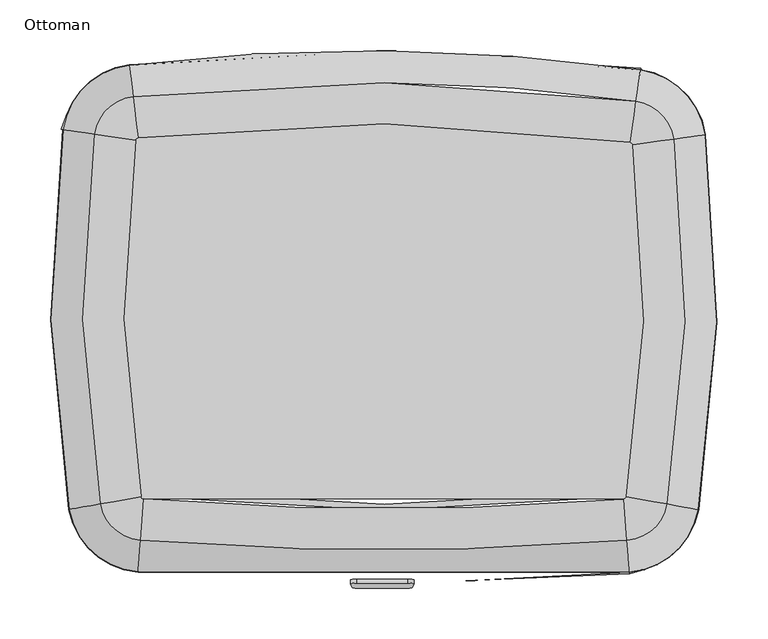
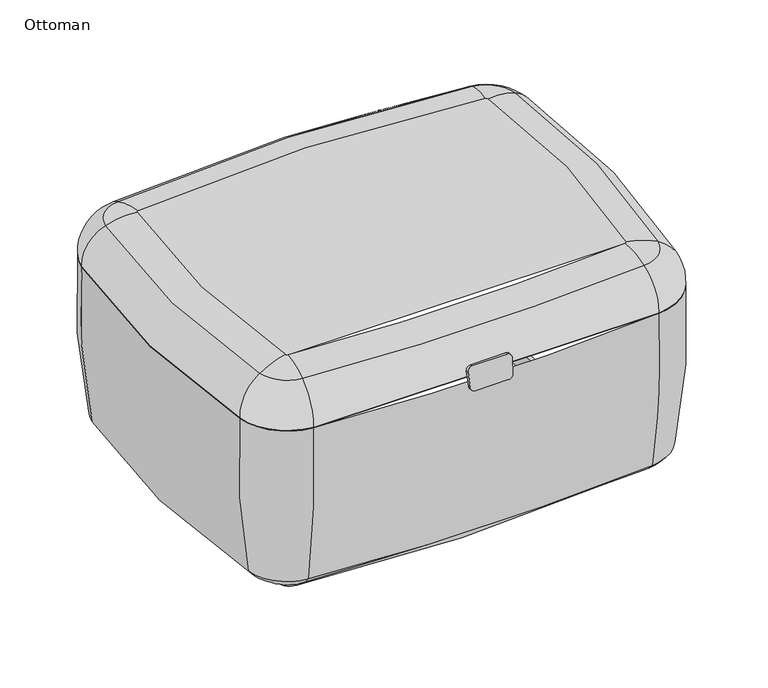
"""IFC4 building model written with IfcOpenShell, lengths in millimetres: furniture geometry, Coalesse_AM_Seating_Ottoman_Massaud : Ottoman."""

from ifc_helpers import new_model, si_unit, point, frame, frame_2d, origin, place, context, project, spatial, polyline, circle_curve, ellipse_curve, trimmed, segment, composite_curve, outline, extrude, source, transform, mapped, element, save
from ifc_brep_helpers import plane_surface, cylinder_surface, revolved_surface, advanced_brep


def ottoman_db271298(model_context):
    return source(origin(), model_context, "Body", "SolidModel", [
        extrude(outline(composite_curve([segment(trimmed(circle_curve(frame_2d((49.6176075, -6.35)), 6.35), [point((49.6176075, 0.0))], [point((55.9589051, -6.6823334))], False, "CARTESIAN"), True, "CONTINUOUS"), segment(polyline([(55.9589051, -6.6823334), (54.8146661, -28.5157131)]), True, "CONTINUOUS"), segment(trimmed(circle_curve(frame_2d((48.4733686, -28.1833798)), 6.35), [point((54.8146661, -28.5157131))], [point((48.4733686, -34.5333798))], False, "CARTESIAN"), True, "CONTINUOUS"), segment(polyline([(48.4733686, -34.5333798), (0.9445452, -34.5333798)]), True, "CONTINUOUS"), segment(trimmed(circle_curve(frame_2d((0.9445452, -28.1833798)), 6.35), [point((0.9445452, -34.5333798))], [point((-5.3967523, -28.5157131))], False, "CARTESIAN"), True, "CONTINUOUS"), segment(polyline([(-5.3967523, -28.5157131), (-6.5409913, -6.6823334)]), True, "CONTINUOUS"), segment(trimmed(circle_curve(frame_2d((-0.1996937, -6.35)), 6.35), [point((-6.5409913, -6.6823334))], [point((-0.1996937, 0.0))], False, "CARTESIAN"), True, "CONTINUOUS"), segment(polyline([(-0.1996937, 0.0), (49.6176075, 0.0)]), True, "CONTINUOUS")], self_intersect=False)), frame((-26.213421, 9.9094783, 308.7471317), z_axis=(0.0, -0.9891204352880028, 0.14710800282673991), x_axis=(1.0, 0.0, 0.0)), (0.0, 0.0, 1.0), 3.9838736),
        advanced_brep(
        [(-260.8692912, 446.3749834, 25.2801461), (-255.1823561, 88.8824496, 25.2801461), (-298.1236147, 81.1627828, 52.5429671), (-304.0343663, 452.7248842, 52.5429671), (-316.5470136, 454.5655868, 286.4331024), (-310.5713823, 78.9250138, 286.4331024), (-310.5713823, 78.9250138, 287.5250719), (-316.5470136, 454.5655868, 287.5250719), (-250.4263603, 505.0155623, 52.5429671), (-245.1521632, 461.705889, 25.2801461), (-251.955239, 517.5701255, 287.5250719), (-251.955239, 517.5701255, 286.4331024), (252.2554108, 500.2496092, 52.5429671), (246.1609929, 457.0477225, 25.2801461), (254.0220543, 512.7729274, 287.5250719), (254.0220543, 512.7729274, 286.4331024), (304.7408151, 447.8502813, 52.5429671), (261.5489896, 441.6849622, 25.2801461), (317.2612167, 449.6374776, 287.5250719), (317.2612167, 449.6374776, 286.4331024), (298.102988, 81.0480786, 52.5429671), (255.1625104, 88.7720887, 25.2801461), (310.5505292, 78.8090505, 287.5250719), (310.5505292, 78.8090505, 286.4331024), (286.9946214, 445.3171411, 340.1119348), (249.7514018, 482.4992817, 340.1119348), (244.0389023, 442.0047236, 349.2604972), (246.5094941, 439.5381836, 349.2604972), (240.2105349, 91.4616073, 349.2604972), (280.4600655, 84.221637, 340.1119348), (-286.2991636, 450.1159051, 340.1119348), (-280.4803712, 84.3345566, 340.1119348), (-240.2301086, 91.5704557, 349.2604972), (-245.8391103, 444.163933, 349.2604972), (-243.3156754, 446.6253587, 349.2604972), (-248.2593548, 487.2209486, 340.1119348), (237.583153, 89.0796896, 349.2604972), (240.8532959, 48.3151456, 340.1119348), (243.2980479, 17.8396589, 287.5250719), (243.2980479, 17.8396589, 286.4331024), (242.2867258, 30.4464728, 52.5429671), (238.7979522, 73.9363958, 25.2801461), (-237.6039993, 89.1883553, 349.2604972), (-240.8927859, 48.4253112, 340.1119348), (-243.3514759, 17.9509459, 287.5250719), (-243.3514759, 17.9509459, 286.4331024), (-242.3343881, 30.5572959, 52.5429671), (-238.8257243, 74.0456188, 25.2801461), (311.5030625, 78.6377115, 287.5250719), (243.3754381, 16.8749375, 287.5250719), (-243.4293073, 16.98626, 287.5250719), (-311.5239329, 78.7537712, 287.5250719), (-317.504529, 454.7064444, 287.5250719), (-252.0722347, 518.5308485, 287.5250719), (254.1572446, 513.7312595, 287.5250719), (318.2193256, 449.7742406, 287.5250719), (-311.5377376, 78.7512895, 286.4331024), (-243.4304353, 16.9722794, 286.4331024), (243.3765597, 16.8609564, 286.4331024), (311.5168669, 78.6352284, 286.4331024), (318.2332109, 449.7762227, 286.4331024), (254.1592038, 513.745148, 286.4331024), (-252.0739302, 518.5447717, 286.4331024), (-317.5184057, 454.7084858, 286.4331024)],
        [
            (0, 1, circle_curve(frame((835.9087058, 285.0308554, 25.2801461), z_axis=(0.0, 0.0, 1.0), x_axis=(-0.9842223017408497, -0.17693631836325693, 0.0)), 1108.5819331)),
            (1, 2, circle_curve(frame((-244.941887, 90.7234065, 90.4734502), z_axis=(-0.176936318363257, 0.9842223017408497, 0.0), x_axis=(0.9842223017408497, 0.176936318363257, 0.0)), 66.0183553)),
            (2, 3, circle_curve(frame((835.9087058, 285.0308554, 52.5429671), z_axis=(0.0, 0.0, -1.0), x_axis=(-0.9842223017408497, -0.17693631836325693, 0.0)), 1152.2115669)),
            (3, 0, circle_curve(frame((-250.5754473, 444.8606831, 90.4734502), z_axis=(-0.14554100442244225, -0.9893522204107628, 0.0), x_axis=(0.9893522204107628, -0.14554100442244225, 0.0)), 66.0183553)),
            (4, 5, circle_curve(frame((835.9087058, 285.0308554, 286.4331024), z_axis=(0.0, 0.0, 1.0), x_axis=(-0.9842223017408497, -0.17693631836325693, 0.0)), 1164.85888)),
            (5, 6),
            (6, 7, circle_curve(frame((835.9087058, 285.0308554, 287.5250719), z_axis=(0.0, 0.0, -1.0), x_axis=(-0.9842223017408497, -0.17693631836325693, 0.0)), 1164.85888)),
            (7, 4),
            (3, 8, circle_curve(frame((-242.9644274, 443.741046, 52.5429671), z_axis=(0.0, 0.0, -1.0), x_axis=(-0.9893522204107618, 0.14554100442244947, 0.0)), 61.7271965)),
            (8, 9, circle_curve(frame((-243.8943926, 451.3775619, 90.4734502), z_axis=(-0.9926664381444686, -0.12088565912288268, 0.0), x_axis=(0.12088565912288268, -0.9926664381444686, 0.0)), 66.0183553)),
            (9, 0, circle_curve(frame((-242.9644274, 443.741046, 25.2801461), z_axis=(0.0, 0.0, 1.0), x_axis=(-0.9893522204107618, 0.14554100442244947, 0.0)), 18.0975626)),
            (7, 10, circle_curve(frame((-242.9644274, 443.741046, 287.5250719), z_axis=(0.0, 0.0, -1.0), x_axis=(-0.9893522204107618, 0.14554100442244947, 0.0)), 74.3745095)),
            (10, 11),
            (11, 4, circle_curve(frame((-242.9644274, 443.741046, 286.4331024), z_axis=(0.0, 0.0, 1.0), x_axis=(-0.9893522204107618, 0.14554100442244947, 0.0)), 74.3745095)),
            (8, 12, circle_curve(frame((-17.2191717, -1409.9919824, 52.5429671), z_axis=(0.0, 0.0, -1.0), x_axis=(-0.12088565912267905, 0.9926664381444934, 0.0)), 1929.1551231)),
            (12, 13, circle_curve(frame((244.7076192, 446.7450998, 90.4734502), z_axis=(-0.9901959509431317, 0.13968528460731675, 0.0), x_axis=(-0.13968528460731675, -0.9901959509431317, 0.0)), 66.0183553)),
            (13, 9, circle_curve(frame((-17.2191717, -1409.9919824, 25.2801461), z_axis=(0.0, 0.0, 1.0), x_axis=(-0.12088565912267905, 0.9926664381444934, 0.0)), 1885.5254892)),
            (10, 14, circle_curve(frame((-17.2191717, -1409.9919824, 287.5250719), z_axis=(0.0, 0.0, -1.0), x_axis=(-0.12088565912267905, 0.9926664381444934, 0.0)), 1941.8024361)),
            (14, 15),
            (15, 11, circle_curve(frame((-17.2191717, -1409.9919824, 286.4331024), z_axis=(0.0, 0.0, 1.0), x_axis=(-0.12088565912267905, 0.9926664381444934, 0.0)), 1941.8024361)),
            (12, 16, circle_curve(frame((243.6330298, 439.1275892, 52.5429671), z_axis=(0.0, 0.0, -1.0), x_axis=(0.1396852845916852, 0.9901959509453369, 0.0)), 61.7271965)),
            (16, 17, circle_curve(frame((251.2487664, 440.2146802, 90.4734502), z_axis=(-0.14131035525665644, 0.9899653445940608, 0.0), x_axis=(-0.9899653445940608, -0.14131035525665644, 0.0)), 66.0183553)),
            (17, 13, circle_curve(frame((243.6330298, 439.1275892, 25.2801461), z_axis=(0.0, 0.0, 1.0), x_axis=(0.1396852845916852, 0.9901959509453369, 0.0)), 18.0975626)),
            (14, 18, circle_curve(frame((243.6330298, 439.1275892, 287.5250719), z_axis=(0.0, 0.0, -1.0), x_axis=(0.1396852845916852, 0.9901959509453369, 0.0)), 74.3745095)),
            (18, 19),
            (19, 15, circle_curve(frame((243.6330298, 439.1275892, 286.4331024), z_axis=(0.0, 0.0, 1.0), x_axis=(0.1396852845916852, 0.9901959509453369, 0.0)), 74.3745095)),
            (16, 20, circle_curve(frame((-835.9087058, 285.0308554, 52.5429671), z_axis=(0.0, 0.0, -1.0), x_axis=(0.9899653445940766, 0.14131035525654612, 0.0)), 1152.2115669)),
            (20, 21, circle_curve(frame((244.9222277, 90.6140815, 90.4734502), z_axis=(0.17703586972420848, 0.9842043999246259, 0.0), x_axis=(-0.9842043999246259, 0.17703586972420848, 0.0)), 66.0183553)),
            (21, 17, circle_curve(frame((-835.9087058, 285.0308554, 25.2801461), z_axis=(0.0, 0.0, 1.0), x_axis=(0.9899653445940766, 0.14131035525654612, 0.0)), 1108.5819331)),
            (18, 22, circle_curve(frame((-835.9087058, 285.0308554, 287.5250719), z_axis=(0.0, 0.0, -1.0), x_axis=(0.9899653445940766, 0.14131035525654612, 0.0)), 1164.85888)),
            (22, 23),
            (23, 19, circle_curve(frame((-835.9087058, 285.0308554, 286.4331024), z_axis=(0.0, 0.0, 1.0), x_axis=(0.9899653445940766, 0.14131035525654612, 0.0)), 1164.85888)),
            (24, 25, circle_curve(frame((243.6330298, 439.1275892, 340.1119348), z_axis=(0.0, 0.0, 1.0), x_axis=(0.1396852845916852, 0.9901959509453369, 0.0)), 43.8011208)),
            (25, 26, circle_curve(frame((244.0389023, 442.0047236, 253.281588), z_axis=(0.9901959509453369, -0.13968528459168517, 0.0), x_axis=(-0.13968528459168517, -0.9901959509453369, 0.0)), 95.9789092)),
            (26, 27, circle_curve(frame((243.6330298, 439.1275892, 349.2604972), z_axis=(0.0, 0.0, -1.0), x_axis=(0.1396852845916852, 0.9901959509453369, 0.0)), 2.9056213)),
            (27, 24, circle_curve(frame((246.5094941, 439.5381836, 253.281588), z_axis=(-0.14131035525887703, 0.9899653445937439, 0.0), x_axis=(-0.9899653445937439, -0.14131035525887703, 0.0)), 95.9789092)),
            (27, 28, circle_curve(frame((-835.9087058, 285.0308554, 349.2604972), z_axis=(0.0, 0.0, -1.0), x_axis=(0.9899653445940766, 0.14131035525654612, 0.0)), 1093.3899917)),
            (28, 29, circle_curve(frame((240.2105349, 91.4616073, 253.281588), z_axis=(0.1770358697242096, 0.9842043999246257, 0.0), x_axis=(-0.9842043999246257, 0.1770358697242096, 0.0)), 95.9789092)),
            (29, 24, circle_curve(frame((-835.9087058, 285.0308554, 340.1119348), z_axis=(0.0, 0.0, 1.0), x_axis=(0.9899653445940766, 0.14131035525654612, 0.0)), 1134.2854913)),
            (30, 31, circle_curve(frame((835.9087058, 285.0308554, 340.1119348), z_axis=(0.0, 0.0, 1.0), x_axis=(-0.9842223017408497, -0.17693631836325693, 0.0)), 1134.2854913)),
            (31, 32, circle_curve(frame((-240.2301086, 91.5704557, 253.281588), z_axis=(-0.176936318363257, 0.9842223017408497, 0.0), x_axis=(0.9842223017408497, 0.176936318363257, 0.0)), 95.9789092)),
            (32, 33, circle_curve(frame((835.9087058, 285.0308554, 349.2604972), z_axis=(0.0, 0.0, -1.0), x_axis=(-0.9842223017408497, -0.17693631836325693, 0.0)), 1093.3899917)),
            (33, 30, circle_curve(frame((-245.8391103, 444.163933, 253.281588), z_axis=(-0.14554100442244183, -0.9893522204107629, 0.0), x_axis=(0.9893522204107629, -0.14554100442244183, 0.0)), 95.9789092)),
            (33, 34, circle_curve(frame((-242.9644274, 443.741046, 349.2604972), z_axis=(0.0, 0.0, -1.0), x_axis=(-0.9893522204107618, 0.14554100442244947, 0.0)), 2.9056213)),
            (34, 35, circle_curve(frame((-243.3156754, 446.6253587, 253.281588), z_axis=(-0.9926664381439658, -0.12088565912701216, 0.0), x_axis=(0.12088565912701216, -0.9926664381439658, 0.0)), 95.9789092)),
            (35, 30, circle_curve(frame((-242.9644274, 443.741046, 340.1119348), z_axis=(0.0, 0.0, 1.0), x_axis=(-0.9893522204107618, 0.14554100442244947, 0.0)), 43.8011208)),
            (25, 35, circle_curve(frame((-17.2191717, -1409.9919824, 340.1119348), z_axis=(0.0, 0.0, 1.0), x_axis=(-0.12088565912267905, 0.9926664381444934, 0.0)), 1911.2290474)),
            (34, 26, circle_curve(frame((-17.2191717, -1409.9919824, 349.2604972), z_axis=(0.0, 0.0, -1.0), x_axis=(-0.12088565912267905, 0.9926664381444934, 0.0)), 1870.3335479)),
            (28, 36, circle_curve(frame((237.3508096, 91.9760065, 349.2604972), z_axis=(0.0, 0.0, -1.0), x_axis=(0.9842043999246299, -0.17703586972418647, 0.0)), 2.9056213)),
            (36, 37, circle_curve(frame((237.583153, 89.0796896, 253.281588), z_axis=(0.996797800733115, 0.07996339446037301, 0.0), x_axis=(-0.07996339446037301, 0.996797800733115, 0.0)), 95.9789092)),
            (37, 29, circle_curve(frame((237.3508096, 91.9760065, 340.1119348), z_axis=(0.0, 0.0, 1.0), x_axis=(0.9842043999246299, -0.17703586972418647, 0.0)), 43.8011208)),
            (22, 38, circle_curve(frame((237.3508096, 91.9760065, 287.5250719), z_axis=(0.0, 0.0, -1.0), x_axis=(0.9842043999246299, -0.17703586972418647, 0.0)), 74.3745095)),
            (38, 39),
            (39, 23, circle_curve(frame((237.3508096, 91.9760065, 286.4331024), z_axis=(0.0, 0.0, 1.0), x_axis=(0.9842043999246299, -0.17703586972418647, 0.0)), 74.3745095)),
            (20, 40, circle_curve(frame((237.3508096, 91.9760065, 52.5429671), z_axis=(0.0, 0.0, -1.0), x_axis=(0.9842043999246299, -0.17703586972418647, 0.0)), 61.7271965)),
            (40, 41, circle_curve(frame((237.9659626, 84.3077082, 90.4734502), z_axis=(0.9967978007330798, 0.07996339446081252, 0.0), x_axis=(-0.07996339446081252, 0.9967978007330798, 0.0)), 66.0183553)),
            (41, 21, circle_curve(frame((237.3508096, 91.9760065, 25.2801461), z_axis=(0.0, 0.0, 1.0), x_axis=(0.9842043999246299, -0.17703586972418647, 0.0)), 18.0975626)),
            (36, 42, circle_curve(frame((0.6649354, 3042.4255278, 349.2604972), z_axis=(0.0, 0.0, -1.0), x_axis=(0.07996339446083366, -0.996797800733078, 0.0)), 2962.8334213)),
            (42, 43, circle_curve(frame((-237.6039993, 89.1883553, 253.281588), z_axis=(0.9967611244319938, -0.08041928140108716, 0.0), x_axis=(0.08041928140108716, 0.9967611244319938, 0.0)), 95.9789092)),
            (43, 37, circle_curve(frame((0.6649354, 3042.4255278, 340.1119348), z_axis=(0.0, 0.0, 1.0), x_axis=(0.07996339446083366, -0.996797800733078, 0.0)), 3003.7289208)),
            (38, 44, circle_curve(frame((0.6649354, 3042.4255278, 287.5250719), z_axis=(0.0, 0.0, -1.0), x_axis=(0.07996339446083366, -0.996797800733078, 0.0)), 3034.3023096)),
            (44, 45),
            (45, 39, circle_curve(frame((0.6649354, 3042.4255278, 286.4331024), z_axis=(0.0, 0.0, 1.0), x_axis=(0.07996339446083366, -0.996797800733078, 0.0)), 3034.3023096)),
            (40, 46, circle_curve(frame((0.6649354, 3042.4255278, 52.5429671), z_axis=(0.0, 0.0, -1.0), x_axis=(0.07996339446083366, -0.996797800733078, 0.0)), 3021.6549965)),
            (46, 47, circle_curve(frame((-237.9889914, 84.4165496, 90.4734502), z_axis=(0.9967611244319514, -0.08041928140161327, 0.0), x_axis=(0.08041928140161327, 0.9967611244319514, 0.0)), 66.0183553)),
            (47, 41, circle_curve(frame((0.6649354, 3042.4255278, 25.2801461), z_axis=(0.0, 0.0, 1.0), x_axis=(0.07996339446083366, -0.996797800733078, 0.0)), 2978.0253627)),
            (47, 1, circle_curve(frame((-237.3703313, 92.0845657, 25.2801461), z_axis=(0.0, 0.0, -1.0), x_axis=(-0.0804192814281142, -0.9967611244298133, 0.0)), 18.0975626)),
            (32, 42, circle_curve(frame((-237.3703313, 92.0845657, 349.2604972), z_axis=(0.0, 0.0, 1.0), x_axis=(-0.0804192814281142, -0.9967611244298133, 0.0)), 2.9056213)),
            (31, 43, circle_curve(frame((-237.3703313, 92.0845657, 340.1119348), z_axis=(0.0, 0.0, 1.0), x_axis=(-0.0804192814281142, -0.9967611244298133, 0.0)), 43.8011208)),
            (48, 49, circle_curve(frame((237.3508096, 91.9760065, 287.5250719), z_axis=(0.0, 0.0, -1.0), x_axis=(0.9842043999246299, -0.17703586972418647, 0.0)), 75.3423302)),
            (49, 50, circle_curve(frame((0.6649354, 3042.4255278, 287.5250719), z_axis=(0.0, 0.0, -1.0), x_axis=(0.07996339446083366, -0.996797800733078, 0.0)), 3035.2701302)),
            (50, 51, circle_curve(frame((-237.3703313, 92.0845657, 287.5250719), z_axis=(0.0, 0.0, -1.0), x_axis=(-0.0804192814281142, -0.9967611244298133, 0.0)), 75.3423302)),
            (51, 52, circle_curve(frame((835.9087058, 285.0308554, 287.5250719), z_axis=(0.0, 0.0, -1.0), x_axis=(-0.9842223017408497, -0.17693631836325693, 0.0)), 1165.8267006)),
            (52, 53, circle_curve(frame((-242.9644274, 443.741046, 287.5250719), z_axis=(0.0, 0.0, -1.0), x_axis=(-0.9893522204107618, 0.14554100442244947, 0.0)), 75.3423302)),
            (53, 54, circle_curve(frame((-17.2191717, -1409.9919824, 287.5250719), z_axis=(0.0, 0.0, -1.0), x_axis=(-0.12088565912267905, 0.9926664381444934, 0.0)), 1942.7702567)),
            (54, 55, circle_curve(frame((243.6330298, 439.1275892, 287.5250719), z_axis=(0.0, 0.0, -1.0), x_axis=(0.1396852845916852, 0.9901959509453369, 0.0)), 75.3423302)),
            (55, 48, circle_curve(frame((-835.9087058, 285.0308554, 287.5250719), z_axis=(0.0, 0.0, -1.0), x_axis=(0.9899653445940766, 0.14131035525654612, 0.0)), 1165.8267006)),
            (6, 44, circle_curve(frame((-237.3703313, 92.0845657, 287.5250719), z_axis=(0.0, 0.0, 1.0), x_axis=(-0.0804192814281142, -0.9967611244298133, 0.0)), 74.3745095)),
            (5, 45, circle_curve(frame((-237.3703313, 92.0845657, 286.4331024), z_axis=(0.0, 0.0, 1.0), x_axis=(-0.0804192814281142, -0.9967611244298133, 0.0)), 74.3745095)),
            (56, 57, circle_curve(frame((-237.3703313, 92.0845657, 286.4331024), z_axis=(0.0, 0.0, 1.0), x_axis=(-0.0804192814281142, -0.9967611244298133, 0.0)), 75.3563562)),
            (57, 58, circle_curve(frame((0.6649354, 3042.4255278, 286.4331024), z_axis=(0.0, 0.0, 1.0), x_axis=(0.07996339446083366, -0.996797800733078, 0.0)), 3035.2841562)),
            (58, 59, circle_curve(frame((237.3508096, 91.9760065, 286.4331024), z_axis=(0.0, 0.0, 1.0), x_axis=(0.9842043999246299, -0.17703586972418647, 0.0)), 75.3563562)),
            (59, 60, circle_curve(frame((-835.9087058, 285.0308554, 286.4331024), z_axis=(0.0, 0.0, 1.0), x_axis=(0.9899653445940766, 0.14131035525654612, 0.0)), 1165.8407266)),
            (60, 61, circle_curve(frame((243.6330298, 439.1275892, 286.4331024), z_axis=(0.0, 0.0, 1.0), x_axis=(0.1396852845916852, 0.9901959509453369, 0.0)), 75.3563562)),
            (61, 62, circle_curve(frame((-17.2191717, -1409.9919824, 286.4331024), z_axis=(0.0, 0.0, 1.0), x_axis=(-0.12088565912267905, 0.9926664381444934, 0.0)), 1942.7842827)),
            (62, 63, circle_curve(frame((-242.9644274, 443.741046, 286.4331024), z_axis=(0.0, 0.0, 1.0), x_axis=(-0.9893522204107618, 0.14554100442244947, 0.0)), 75.3563562)),
            (63, 56, circle_curve(frame((835.9087058, 285.0308554, 286.4331024), z_axis=(0.0, 0.0, 1.0), x_axis=(-0.9842223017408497, -0.17693631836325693, 0.0)), 1165.8407266)),
            (46, 2, circle_curve(frame((-237.3703313, 92.0845657, 52.5429671), z_axis=(0.0, 0.0, -1.0), x_axis=(-0.0804192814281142, -0.9967611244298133, 0.0)), 61.7271965)),
            (24, 55, circle_curve(frame((263.761718, 442.0008131, 290.2832397), z_axis=(-0.1413103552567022, 0.9899653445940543, 0.0), x_axis=(0.9899653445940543, 0.1413103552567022, 0.0)), 55.0787136)),
            (54, 25, circle_curve(frame((246.4732115, 459.2609663, 290.2832397), z_axis=(0.9901959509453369, -0.13968528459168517, 0.0), x_axis=(0.13968528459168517, 0.9901959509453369, 0.0)), 55.0787136)),
            (12, 61, circle_curve(frame((118.1275761, -450.5508931, 225.8383961), z_axis=(0.9901959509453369, -0.13968528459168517, 0.0), x_axis=(0.13968528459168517, 0.9901959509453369, 0.0)), 975.7269992)),
            (60, 16, circle_curve(frame((-645.8382557, 312.1620302, 225.8383961), z_axis=(-0.14131035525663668, 0.9899653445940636, 0.0), x_axis=(0.9899653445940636, 0.14131035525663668, 0.0)), 975.7269992)),
            (29, 48, circle_curve(frame((257.3623622, 88.3763857, 290.2832397), z_axis=(0.1770358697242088, 0.9842043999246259, 0.0), x_axis=(0.9842043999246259, -0.1770358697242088, 0.0)), 55.0787136)),
            (59, 20, circle_curve(frame((-646.9443402, 251.0404863, 225.8383961), z_axis=(0.17703586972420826, 0.984204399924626, 0.0), x_axis=(0.984204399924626, -0.17703586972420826, 0.0)), 975.7269992)),
            (37, 49, circle_curve(frame((238.9766829, 71.7083958, 290.2832397), z_axis=(0.9967978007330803, 0.07996339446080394, 0.0), x_axis=(0.07996339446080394, -0.9967978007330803, 0.0)), 55.0787136)),
            (58, 40, circle_curve(frame((165.5047156, 987.5861669, 225.8383961), z_axis=(0.9967978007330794, 0.0799633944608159, 0.0), x_axis=(0.0799633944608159, -0.9967978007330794, 0.0)), 975.7269992)),
            (43, 50, circle_curve(frame((-239.005474, 71.8177008, 290.2832397), z_axis=(0.9967611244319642, -0.08041928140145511, 0.0), x_axis=(-0.08041928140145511, -0.9967611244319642, 0.0)), 55.0787136)),
            (57, 46, circle_curve(frame((-165.1146286, 987.661773, 225.8383961), z_axis=(0.9967611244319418, -0.08041928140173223, 0.0), x_axis=(-0.08041928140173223, -0.9967611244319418, 0.0)), 975.7269992)),
            (31, 51, circle_curve(frame((-257.3822478, 88.4869691, 290.2832397), z_axis=(0.17693631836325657, -0.9842223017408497, 0.0), x_axis=(-0.9842223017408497, -0.17693631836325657, 0.0)), 55.0787136)),
            (56, 2, circle_curve(frame((646.9409031, 251.0595999, 225.8383961), z_axis=(0.17693631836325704, -0.9842223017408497, 0.0), x_axis=(-0.9842223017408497, -0.17693631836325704, 0.0)), 975.7269992)),
            (30, 52, circle_curve(frame((-263.0806491, 446.7002905, 290.2832397), z_axis=(-0.1455410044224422, -0.9893522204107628, 0.0), x_axis=(-0.9893522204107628, 0.1455410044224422, 0.0)), 55.0787136)),
            (63, 3, circle_curve(frame((645.9559737, 312.9743025, 225.8383961), z_axis=(-0.1455410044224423, -0.9893522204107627, 0.0), x_axis=(-0.9893522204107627, 0.1455410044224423, 0.0)), 975.7269992)),
            (35, 53, circle_curve(frame((-245.4223617, 463.9246548, 290.2832397), z_axis=(-0.9926664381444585, -0.12088565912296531, 0.0), x_axis=(-0.12088565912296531, 0.9926664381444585, 0.0)), 55.0787136)),
            (62, 8, circle_curve(frame((-134.3501984, -448.1571377, 225.8383961), z_axis=(-0.9926664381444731, -0.12088565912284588, 0.0), x_axis=(-0.12088565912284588, 0.9926664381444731, 0.0)), 975.7269992)),
        ],
        [
            revolved_surface(trimmed(ellipse_curve(frame((-244.941887, 90.7234065, 90.4734502), z_axis=(0.176936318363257, -0.9842223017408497, 0.0), x_axis=(0.9842223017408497, 0.176936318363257, 0.0)), 66.0183553, 66.0183553), [point((-298.1236147, 81.1627828, 52.5429671))], [point((-255.1823561, 88.8824496, 25.2801461))], True, "CARTESIAN"), (835.9087058, 285.0308554, 0.0), (0.0, 0.0, -1.0)),
            cylinder_surface(frame((835.9087058, 285.0308554, 0.0), z_axis=(0.0, 0.0, -1.0), x_axis=(-0.9842223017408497, -0.17693631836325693, 0.0)), 1164.85888),
            revolved_surface(trimmed(ellipse_curve(frame((-250.5754473, 444.8606831, 90.4734502), z_axis=(-0.1455410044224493, -0.9893522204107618, 0.0), x_axis=(0.9893522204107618, -0.1455410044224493, 0.0)), 66.0183553, 66.0183553), [point((-304.0343663, 452.7248842, 52.5429671))], [point((-260.8692912, 446.3749834, 25.2801461))], True, "CARTESIAN"), (-242.9644274, 443.741046, 0.0), (0.0, 0.0, -1.0)),
            cylinder_surface(frame((-242.9644274, 443.741046, 0.0), z_axis=(0.0, 0.0, -1.0), x_axis=(-0.9893522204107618, 0.14554100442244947, 0.0)), 74.3745095),
            revolved_surface(trimmed(ellipse_curve(frame((-243.8943926, 451.3775619, 90.4734502), z_axis=(-0.9926664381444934, -0.12088565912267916, 0.0), x_axis=(0.12088565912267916, -0.9926664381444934, 0.0)), 66.0183553, 66.0183553), [point((-250.4263603, 505.0155623, 52.5429671))], [point((-245.1521632, 461.705889, 25.2801461))], True, "CARTESIAN"), (-17.2191717, -1409.9919824, 0.0), (0.0, 0.0, -1.0)),
            cylinder_surface(frame((-17.2191717, -1409.9919824, 0.0), z_axis=(0.0, 0.0, -1.0), x_axis=(-0.12088565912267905, 0.9926664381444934, 0.0)), 1941.8024361),
            revolved_surface(trimmed(ellipse_curve(frame((244.7076192, 446.7450998, 90.4734502), z_axis=(-0.9901959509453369, 0.13968528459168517, 0.0), x_axis=(-0.13968528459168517, -0.9901959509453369, 0.0)), 66.0183553, 66.0183553), [point((252.2554108, 500.2496092, 52.5429671))], [point((246.1609929, 457.0477225, 25.2801461))], True, "CARTESIAN"), (243.6330298, 439.1275892, 0.0), (0.0, 0.0, -1.0)),
            cylinder_surface(frame((243.6330298, 439.1275892, 0.0), z_axis=(0.0, 0.0, -1.0), x_axis=(0.1396852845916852, 0.9901959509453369, 0.0)), 74.3745095),
            revolved_surface(trimmed(ellipse_curve(frame((251.2487664, 440.2146802, 90.4734502), z_axis=(-0.14131035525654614, 0.9899653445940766, 0.0), x_axis=(-0.9899653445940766, -0.14131035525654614, 0.0)), 66.0183553, 66.0183553), [point((304.7408151, 447.8502813, 52.5429671))], [point((261.5489896, 441.6849622, 25.2801461))], True, "CARTESIAN"), (-835.9087058, 285.0308554, 0.0), (0.0, 0.0, -1.0)),
            cylinder_surface(frame((-835.9087058, 285.0308554, 0.0), z_axis=(0.0, 0.0, -1.0), x_axis=(0.9899653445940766, 0.14131035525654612, 0.0)), 1164.85888),
            revolved_surface(trimmed(ellipse_curve(frame((244.0389023, 442.0047236, 253.281588), z_axis=(-0.9901959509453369, 0.13968528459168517, 0.0), x_axis=(-0.13968528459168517, -0.9901959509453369, 0.0)), 95.9789092, 95.9789092), [point((244.0389023, 442.0047236, 349.2604972))], [point((249.7514018, 482.4992817, 340.1119348))], True, "CARTESIAN"), (243.6330298, 439.1275892, 0.0), (0.0, 0.0, -1.0)),
            revolved_surface(trimmed(ellipse_curve(frame((246.5094941, 439.5381836, 253.281588), z_axis=(-0.14131035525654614, 0.9899653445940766, 0.0), x_axis=(-0.9899653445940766, -0.14131035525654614, 0.0)), 95.9789092, 95.9789092), [point((246.5094941, 439.5381836, 349.2604972))], [point((286.9946214, 445.3171411, 340.1119348))], True, "CARTESIAN"), (-835.9087058, 285.0308554, 0.0), (0.0, 0.0, -1.0)),
            revolved_surface(trimmed(ellipse_curve(frame((-240.2301086, 91.5704557, 253.281588), z_axis=(0.176936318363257, -0.9842223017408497, 0.0), x_axis=(0.9842223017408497, 0.176936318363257, 0.0)), 95.9789092, 95.9789092), [point((-240.2301086, 91.5704557, 349.2604972))], [point((-280.4803712, 84.3345566, 340.1119348))], True, "CARTESIAN"), (835.9087058, 285.0308554, 0.0), (0.0, 0.0, -1.0)),
            revolved_surface(trimmed(ellipse_curve(frame((-245.8391103, 444.163933, 253.281588), z_axis=(-0.1455410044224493, -0.9893522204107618, 0.0), x_axis=(0.9893522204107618, -0.1455410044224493, 0.0)), 95.9789092, 95.9789092), [point((-245.8391103, 444.163933, 349.2604972))], [point((-286.2991636, 450.1159051, 340.1119348))], True, "CARTESIAN"), (-242.9644274, 443.741046, 0.0), (0.0, 0.0, -1.0)),
            revolved_surface(trimmed(ellipse_curve(frame((-243.3156754, 446.6253587, 253.281588), z_axis=(-0.9926664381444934, -0.12088565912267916, 0.0), x_axis=(0.12088565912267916, -0.9926664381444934, 0.0)), 95.9789092, 95.9789092), [point((-243.3156754, 446.6253587, 349.2604972))], [point((-248.2593548, 487.2209486, 340.1119348))], True, "CARTESIAN"), (-17.2191717, -1409.9919824, 0.0), (0.0, 0.0, -1.0)),
            revolved_surface(trimmed(ellipse_curve(frame((240.2105349, 91.4616073, 253.281588), z_axis=(0.17703586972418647, 0.9842043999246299, 0.0), x_axis=(-0.9842043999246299, 0.17703586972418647, 0.0)), 95.9789092, 95.9789092), [point((240.2105349, 91.4616073, 349.2604972))], [point((280.4600655, 84.221637, 340.1119348))], True, "CARTESIAN"), (237.3508096, 91.9760065, 0.0), (0.0, 0.0, -1.0)),
            cylinder_surface(frame((237.3508096, 91.9760065, 0.0), z_axis=(0.0, 0.0, -1.0), x_axis=(0.9842043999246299, -0.17703586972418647, 0.0)), 74.3745095),
            revolved_surface(trimmed(ellipse_curve(frame((244.9222277, 90.6140815, 90.4734502), z_axis=(0.17703586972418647, 0.9842043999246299, 0.0), x_axis=(-0.9842043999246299, 0.17703586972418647, 0.0)), 66.0183553, 66.0183553), [point((298.102988, 81.0480786, 52.5429671))], [point((255.1625104, 88.7720887, 25.2801461))], True, "CARTESIAN"), (237.3508096, 91.9760065, 0.0), (0.0, 0.0, -1.0)),
            revolved_surface(trimmed(ellipse_curve(frame((237.583153, 89.0796896, 253.281588), z_axis=(0.996797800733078, 0.07996339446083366, 0.0), x_axis=(-0.07996339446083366, 0.996797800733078, 0.0)), 95.9789092, 95.9789092), [point((237.583153, 89.0796896, 349.2604972))], [point((240.8532959, 48.3151456, 340.1119348))], True, "CARTESIAN"), (0.6649354, 3042.4255278, 0.0), (0.0, 0.0, -1.0)),
            cylinder_surface(frame((0.6649354, 3042.4255278, 0.0), z_axis=(0.0, 0.0, -1.0), x_axis=(0.07996339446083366, -0.996797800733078, 0.0)), 3034.3023096),
            revolved_surface(trimmed(ellipse_curve(frame((237.9659626, 84.3077082, 90.4734502), z_axis=(0.996797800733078, 0.07996339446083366, 0.0), x_axis=(-0.07996339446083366, 0.996797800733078, 0.0)), 66.0183553, 66.0183553), [point((242.2867258, 30.4464728, 52.5429671))], [point((238.7979522, 73.9363958, 25.2801461))], True, "CARTESIAN"), (0.6649354, 3042.4255278, 0.0), (0.0, 0.0, -1.0)),
            plane_surface(frame((-237.3703313, 92.0845657, 25.2801461), z_axis=(0.0, 0.0, -1.0), x_axis=(-0.0804192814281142, -0.9967611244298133, 0.0))),
            plane_surface(frame((-237.3703313, 92.0845657, 349.2604972), z_axis=(0.0, 0.0, 1.0), x_axis=(-0.0804192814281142, -0.9967611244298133, 0.0))),
            revolved_surface(trimmed(ellipse_curve(frame((-237.6039993, 89.1883553, 253.281588), z_axis=(0.9967611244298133, -0.08041928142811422, 0.0), x_axis=(0.08041928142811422, 0.9967611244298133, 0.0)), 95.9789092, 95.9789092), [point((-237.6039993, 89.1883553, 349.2604972))], [point((-240.8927859, 48.4253112, 340.1119348))], True, "CARTESIAN"), (-237.3703313, 92.0845657, 0.0), (0.0, 0.0, -1.0)),
            plane_surface(frame((-237.3703313, 92.0845657, 287.5250719), z_axis=(0.0, 0.0, -1.0), x_axis=(-0.0804192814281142, -0.9967611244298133, 0.0))),
            cylinder_surface(frame((-237.3703313, 92.0845657, 0.0), z_axis=(0.0, 0.0, -1.0), x_axis=(-0.0804192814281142, -0.9967611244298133, 0.0)), 74.3745095),
            plane_surface(frame((-237.3703313, 92.0845657, 286.4331024), z_axis=(0.0, 0.0, 1.0), x_axis=(-0.0804192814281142, -0.9967611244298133, 0.0))),
            revolved_surface(trimmed(ellipse_curve(frame((-237.9889914, 84.4165496, 90.4734502), z_axis=(0.9967611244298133, -0.08041928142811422, 0.0), x_axis=(0.08041928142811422, 0.9967611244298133, 0.0)), 66.0183553, 66.0183553), [point((-242.3343881, 30.5572959, 52.5429671))], [point((-238.8257243, 74.0456188, 25.2801461))], True, "CARTESIAN"), (-237.3703313, 92.0845657, 0.0), (0.0, 0.0, -1.0)),
            revolved_surface(trimmed(ellipse_curve(frame((246.4732115, 459.2609663, 290.2832397), z_axis=(-0.9901959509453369, 0.13968528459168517, 0.0), x_axis=(0.13968528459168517, 0.9901959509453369, 0.0)), 55.0787136, 55.0787136), [point((249.7514018, 482.4992817, 340.1119348))], [point((254.1572446, 513.7312595, 287.5250719))], True, "CARTESIAN"), (243.6330298, 439.1275892, 0.0), (0.0, 0.0, -1.0)),
            revolved_surface(trimmed(ellipse_curve(frame((118.1275761, -450.5508931, 225.8383961), z_axis=(-0.9901959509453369, 0.13968528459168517, 0.0), x_axis=(0.13968528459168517, 0.9901959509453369, 0.0)), 975.7269992, 975.7269992), [point((254.1592038, 513.745148, 286.4331024))], [point((252.2554108, 500.2496092, 52.5429671))], True, "CARTESIAN"), (243.6330298, 439.1275892, 0.0), (0.0, 0.0, -1.0)),
            revolved_surface(trimmed(ellipse_curve(frame((263.761718, 442.0008131, 290.2832397), z_axis=(-0.14131035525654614, 0.9899653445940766, 0.0), x_axis=(0.9899653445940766, 0.14131035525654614, 0.0)), 55.0787136, 55.0787136), [point((286.9946214, 445.3171411, 340.1119348))], [point((318.2193256, 449.7742406, 287.5250719))], True, "CARTESIAN"), (-835.9087058, 285.0308554, 0.0), (0.0, 0.0, -1.0)),
            revolved_surface(trimmed(ellipse_curve(frame((-645.8382557, 312.1620302, 225.8383961), z_axis=(-0.14131035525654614, 0.9899653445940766, 0.0), x_axis=(0.9899653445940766, 0.14131035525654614, 0.0)), 975.7269992, 975.7269992), [point((318.2332109, 449.7762227, 286.4331024))], [point((304.7408151, 447.8502813, 52.5429671))], True, "CARTESIAN"), (-835.9087058, 285.0308554, 0.0), (0.0, 0.0, -1.0)),
            revolved_surface(trimmed(ellipse_curve(frame((257.3623622, 88.3763857, 290.2832397), z_axis=(0.17703586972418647, 0.9842043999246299, 0.0), x_axis=(0.9842043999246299, -0.17703586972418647, 0.0)), 55.0787136, 55.0787136), [point((280.4600655, 84.221637, 340.1119348))], [point((311.5030625, 78.6377115, 287.5250719))], True, "CARTESIAN"), (237.3508096, 91.9760065, 0.0), (0.0, 0.0, -1.0)),
            revolved_surface(trimmed(ellipse_curve(frame((-646.9443402, 251.0404863, 225.8383961), z_axis=(0.17703586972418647, 0.9842043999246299, 0.0), x_axis=(0.9842043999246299, -0.17703586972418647, 0.0)), 975.7269992, 975.7269992), [point((311.5168669, 78.6352284, 286.4331024))], [point((298.102988, 81.0480786, 52.5429671))], True, "CARTESIAN"), (237.3508096, 91.9760065, 0.0), (0.0, 0.0, -1.0)),
            revolved_surface(trimmed(ellipse_curve(frame((238.9766829, 71.7083958, 290.2832397), z_axis=(0.996797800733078, 0.07996339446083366, 0.0), x_axis=(0.07996339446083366, -0.996797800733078, 0.0)), 55.0787136, 55.0787136), [point((240.8532959, 48.3151456, 340.1119348))], [point((243.3754381, 16.8749375, 287.5250719))], True, "CARTESIAN"), (0.6649354, 3042.4255278, 0.0), (0.0, 0.0, -1.0)),
            revolved_surface(trimmed(ellipse_curve(frame((165.5047156, 987.5861669, 225.8383961), z_axis=(0.996797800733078, 0.07996339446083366, 0.0), x_axis=(0.07996339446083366, -0.996797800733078, 0.0)), 975.7269992, 975.7269992), [point((243.3765597, 16.8609564, 286.4331024))], [point((242.2867258, 30.4464728, 52.5429671))], True, "CARTESIAN"), (0.6649354, 3042.4255278, 0.0), (0.0, 0.0, -1.0)),
            revolved_surface(trimmed(ellipse_curve(frame((-239.005474, 71.8177008, 290.2832397), z_axis=(0.9967611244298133, -0.08041928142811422, 0.0), x_axis=(-0.08041928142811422, -0.9967611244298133, 0.0)), 55.0787136, 55.0787136), [point((-240.8927859, 48.4253112, 340.1119348))], [point((-243.4293073, 16.98626, 287.5250719))], True, "CARTESIAN"), (-237.3703313, 92.0845657, 0.0), (0.0, 0.0, -1.0)),
            revolved_surface(trimmed(ellipse_curve(frame((-165.1146286, 987.661773, 225.8383961), z_axis=(0.9967611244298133, -0.08041928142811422, 0.0), x_axis=(-0.08041928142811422, -0.9967611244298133, 0.0)), 975.7269992, 975.7269992), [point((-243.4304353, 16.9722794, 286.4331024))], [point((-242.3343881, 30.5572959, 52.5429671))], True, "CARTESIAN"), (-237.3703313, 92.0845657, 0.0), (0.0, 0.0, -1.0)),
            revolved_surface(trimmed(ellipse_curve(frame((-257.3822478, 88.4869691, 290.2832397), z_axis=(0.176936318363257, -0.9842223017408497, 0.0), x_axis=(-0.9842223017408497, -0.176936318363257, 0.0)), 55.0787136, 55.0787136), [point((-280.4803712, 84.3345566, 340.1119348))], [point((-311.5239329, 78.7537712, 287.5250719))], True, "CARTESIAN"), (835.9087058, 285.0308554, 0.0), (0.0, 0.0, -1.0)),
            revolved_surface(trimmed(ellipse_curve(frame((646.9409031, 251.0595999, 225.8383961), z_axis=(0.176936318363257, -0.9842223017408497, 0.0), x_axis=(-0.9842223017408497, -0.176936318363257, 0.0)), 975.7269992, 975.7269992), [point((-311.5377376, 78.7512895, 286.4331024))], [point((-298.1236147, 81.1627828, 52.5429671))], True, "CARTESIAN"), (835.9087058, 285.0308554, 0.0), (0.0, 0.0, -1.0)),
            revolved_surface(trimmed(ellipse_curve(frame((-263.0806491, 446.7002905, 290.2832397), z_axis=(-0.1455410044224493, -0.9893522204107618, 0.0), x_axis=(-0.9893522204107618, 0.1455410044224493, 0.0)), 55.0787136, 55.0787136), [point((-286.2991636, 450.1159051, 340.1119348))], [point((-317.504529, 454.7064444, 287.5250719))], True, "CARTESIAN"), (-242.9644274, 443.741046, 0.0), (0.0, 0.0, -1.0)),
            revolved_surface(trimmed(ellipse_curve(frame((645.9559737, 312.9743025, 225.8383961), z_axis=(-0.1455410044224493, -0.9893522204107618, 0.0), x_axis=(-0.9893522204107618, 0.1455410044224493, 0.0)), 975.7269992, 975.7269992), [point((-317.5184057, 454.7084858, 286.4331024))], [point((-304.0343663, 452.7248842, 52.5429671))], True, "CARTESIAN"), (-242.9644274, 443.741046, 0.0), (0.0, 0.0, -1.0)),
            revolved_surface(trimmed(ellipse_curve(frame((-245.4223617, 463.9246548, 290.2832397), z_axis=(-0.9926664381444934, -0.12088565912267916, 0.0), x_axis=(-0.12088565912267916, 0.9926664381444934, 0.0)), 55.0787136, 55.0787136), [point((-248.2593548, 487.2209486, 340.1119348))], [point((-252.0722347, 518.5308485, 287.5250719))], True, "CARTESIAN"), (-17.2191717, -1409.9919824, 0.0), (0.0, 0.0, -1.0)),
            revolved_surface(trimmed(ellipse_curve(frame((-134.3501984, -448.1571377, 225.8383961), z_axis=(-0.9926664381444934, -0.12088565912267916, 0.0), x_axis=(-0.12088565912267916, 0.9926664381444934, 0.0)), 975.7269992, 975.7269992), [point((-252.0739302, 518.5447717, 286.4331024))], [point((-250.4263603, 505.0155623, 52.5429671))], True, "CARTESIAN"), (-17.2191717, -1409.9919824, 0.0), (0.0, 0.0, -1.0)),
        ],
        [
            (0, [[1, 2, 3, 4]]),
            (1, [[5, 6, 7, 8]]),
            (2, [[-4, 9, 10, 11]]),
            (3, [[-8, 12, 13, 14]]),
            (4, [[-10, 15, 16, 17]]),
            (5, [[-13, 18, 19, 20]]),
            (6, [[-16, 21, 22, 23]]),
            (7, [[-19, 24, 25, 26]]),
            (8, [[-22, 27, 28, 29]]),
            (9, [[-25, 30, 31, 32]]),
            (10, [[33, 34, 35, 36]]),
            (11, [[-36, 37, 38, 39]]),
            (12, [[40, 41, 42, 43]]),
            (13, [[-43, 44, 45, 46]]),
            (14, [[-34, 47, -45, 48]]),
            (15, [[-38, 49, 50, 51]]),
            (16, [[-31, 52, 53, 54]]),
            (17, [[-28, 55, 56, 57]]),
            (18, [[-50, 58, 59, 60]]),
            (19, [[-53, 61, 62, 63]]),
            (20, [[-56, 64, 65, 66]]),
            (21, [[-1, -11, -17, -23, -29, -57, -66, 67]]),
            (22, [[-35, -48, -44, -42, 68, -58, -49, -37]]),
            (23, [[-41, 69, -59, -68]]),
            (24, [[70, 71, 72, 73, 74, 75, 76, 77], [-7, 78, -61, -52, -30, -24, -18, -12]]),
            (25, [[-6, 79, -62, -78]]),
            (26, [[80, 81, 82, 83, 84, 85, 86, 87], [-5, -14, -20, -26, -32, -54, -63, -79]]),
            (27, [[-2, -67, -65, 88]]),
            (28, [[-33, 89, -76, 90]]),
            (29, [[-21, 91, -84, 92]]),
            (30, [[-39, 93, -77, -89]]),
            (31, [[-27, -92, -83, 94]]),
            (32, [[-51, 95, -70, -93]]),
            (33, [[-55, -94, -82, 96]]),
            (34, [[-60, 97, -71, -95]]),
            (35, [[-64, -96, -81, 98]]),
            (36, [[-69, 99, -72, -97]]),
            (37, [[-80, 100, -88, -98]]),
            (38, [[-40, 101, -73, -99]]),
            (39, [[-3, -100, -87, 102]]),
            (40, [[-46, 103, -74, -101]]),
            (41, [[-9, -102, -86, 104]]),
            (42, [[-47, -90, -75, -103]]),
            (43, [[-15, -104, -85, -91]]),
        ],
    ),
        advanced_brep(
        [(226.264172, 444.4706742, 0.0), (242.7761536, 428.336196, 0.0), (242.4630773, 106.8134266, 0.0), (225.795265, 90.6964258, 0.0), (-224.5901305, 91.0455091, 0.0), (-242.7348955, 108.6476134, 0.0), (-242.6736237, 429.0318047, 0.0), (-226.1056869, 445.1612516, 0.0), (225.4862873, 438.2165918, 0.0), (-225.3467531, 438.902485, 0.0), (-236.3917952, 428.1038329, 0.0), (-236.4527126, 109.5731824, 0.0), (-223.8556793, 97.3528922, 0.0), (225.0705921, 97.0049399, 0.0), (236.1824669, 107.749607, 0.0), (236.493732, 427.4122486, 0.0), (226.264172, 444.4706742, 25.2801461), (-226.1056869, 445.1612516, 25.2801461), (-242.6736237, 429.0318047, 25.2801461), (-242.7348955, 108.6476134, 25.2801461), (-224.5901305, 91.0455091, 25.2801461), (225.795265, 90.6964258, 25.2801461), (242.4630773, 106.8134266, 25.2801461), (242.7761536, 428.336196, 25.2801461), (225.4804561, 438.1692194, 25.2801461), (236.493732, 427.4122486, 25.2801461), (236.1824669, 107.749607, 25.2801461), (225.0705921, 97.0049399, 25.2801461), (-223.8556793, 97.3528922, 25.2801461), (-236.4527126, 109.5731824, 25.2801461), (-236.3917952, 428.1038329, 25.2801461), (-225.3413448, 438.8574178, 25.2801461)],
        [
            (0, 1, circle_curve(frame((223.9288888, 425.5643538, 0.0), z_axis=(0.0, 0.0, -1.0), x_axis=(1.0, 0.0, 0.0)), 19.05)),
            (1, 2, circle_curve(frame((-843.1393023, 268.6320471, 0.0), z_axis=(0.0, 0.0, -1.0), x_axis=(1.0, 0.0, 0.0)), 1097.5963704)),
            (2, 3, circle_curve(frame((223.6212462, 109.6219679, 0.0), z_axis=(0.0, 0.0, -1.0), x_axis=(1.0, 0.0, 0.0)), 19.05)),
            (3, 4, circle_curve(frame((2.1116911, 2037.934864, 0.0), z_axis=(0.0, 0.0, -1.0), x_axis=(1.0, 0.0, 0.0)), 1960.0438455)),
            (4, 5, circle_curve(frame((-222.1879875, 111.6748383, 0.0), z_axis=(0.0, 0.0, -1.0), x_axis=(1.0, 0.0, 0.0)), 20.7687149)),
            (5, 6, circle_curve(frame((843.1393023, 268.6320471, 0.0), z_axis=(0.0, 0.0, -1.0), x_axis=(-1.0, 0.0, 0.0)), 1097.5963704)),
            (6, 7, circle_curve(frame((-223.8281384, 426.2478894, 0.0), z_axis=(0.0, 0.0, -1.0), x_axis=(1.0, 0.0, 0.0)), 19.05)),
            (7, 0, circle_curve(frame((-2.7517105, -1409.628926, 0.0), z_axis=(0.0, 0.0, -1.0), x_axis=(1.0, 0.0, 0.0)), 1868.1899266)),
            (8, 9, circle_curve(frame((-2.7517105, -1415.978926, 0.0), z_axis=(0.0, 0.0, 1.0), x_axis=(1.0, 0.0, 0.0)), 1868.1899266)),
            (9, 10, circle_curve(frame((-223.8281384, 426.2478894, 0.0), z_axis=(0.0, 0.0, 1.0), x_axis=(1.0, 0.0, 0.0)), 12.7)),
            (10, 11, circle_curve(frame((843.1393023, 268.6320471, 0.0), z_axis=(0.0, 0.0, 1.0), x_axis=(-1.0, 0.0, 0.0)), 1091.2463704)),
            (11, 12, circle_curve(frame((-222.1879875, 111.6748383, 0.0), z_axis=(0.0, 0.0, 1.0), x_axis=(1.0, 0.0, 0.0)), 14.4187149)),
            (12, 13, circle_curve(frame((2.1116911, 2037.934864, 0.0), z_axis=(0.0, 0.0, 1.0), x_axis=(1.0, 0.0, 0.0)), 1953.6938455)),
            (13, 14, circle_curve(frame((223.6212462, 109.6219679, 0.0), z_axis=(0.0, 0.0, 1.0), x_axis=(1.0, 0.0, 0.0)), 12.7)),
            (14, 15, circle_curve(frame((-843.1393023, 268.6320471, 0.0), z_axis=(0.0, 0.0, 1.0), x_axis=(1.0, 0.0, 0.0)), 1091.2463704)),
            (15, 8, circle_curve(frame((223.9288888, 425.5643538, 0.0), z_axis=(0.0, 0.0, 1.0), x_axis=(1.0, 0.0, 0.0)), 12.7)),
            (16, 17, circle_curve(frame((-2.7517105, -1409.628926, 25.2801461), z_axis=(0.0, 0.0, 1.0), x_axis=(1.0, 0.0, 0.0)), 1868.1899266)),
            (17, 18, circle_curve(frame((-223.8281384, 426.2478894, 25.2801461), z_axis=(0.0, 0.0, 1.0), x_axis=(1.0, 0.0, 0.0)), 19.05)),
            (18, 19, circle_curve(frame((843.1393023, 268.6320471, 25.2801461), z_axis=(0.0, 0.0, 1.0), x_axis=(-1.0, 0.0, 0.0)), 1097.5963704)),
            (19, 20, circle_curve(frame((-222.1879875, 111.6748383, 25.2801461), z_axis=(0.0, 0.0, 1.0), x_axis=(1.0, 0.0, 0.0)), 20.7687149)),
            (20, 21, circle_curve(frame((2.1116911, 2037.934864, 25.2801461), z_axis=(0.0, 0.0, 1.0), x_axis=(1.0, 0.0, 0.0)), 1960.0438455)),
            (21, 22, circle_curve(frame((223.6212462, 109.6219679, 25.2801461), z_axis=(0.0, 0.0, 1.0), x_axis=(1.0, 0.0, 0.0)), 19.05)),
            (22, 23, circle_curve(frame((-843.1393023, 268.6320471, 25.2801461), z_axis=(0.0, 0.0, 1.0), x_axis=(1.0, 0.0, 0.0)), 1097.5963704)),
            (23, 16, circle_curve(frame((223.9288888, 425.5643538, 25.2801461), z_axis=(0.0, 0.0, 1.0), x_axis=(1.0, 0.0, 0.0)), 19.05)),
            (24, 25, circle_curve(frame((223.9288888, 425.5643538, 25.2801461), z_axis=(0.0, 0.0, -1.0), x_axis=(1.0, 0.0, 0.0)), 12.7)),
            (25, 26, circle_curve(frame((-843.1393023, 268.6320471, 25.2801461), z_axis=(0.0, 0.0, -1.0), x_axis=(1.0, 0.0, 0.0)), 1091.2463704)),
            (26, 27, circle_curve(frame((223.6212462, 109.6219679, 25.2801461), z_axis=(0.0, 0.0, -1.0), x_axis=(1.0, 0.0, 0.0)), 12.7)),
            (27, 28, circle_curve(frame((2.1116911, 2037.934864, 25.2801461), z_axis=(0.0, 0.0, -1.0), x_axis=(1.0, 0.0, 0.0)), 1953.6938455)),
            (28, 29, circle_curve(frame((-222.1879875, 111.6748383, 25.2801461), z_axis=(0.0, 0.0, -1.0), x_axis=(1.0, 0.0, 0.0)), 14.4187149)),
            (29, 30, circle_curve(frame((843.1393023, 268.6320471, 25.2801461), z_axis=(0.0, 0.0, -1.0), x_axis=(-1.0, 0.0, 0.0)), 1091.2463704)),
            (30, 31, circle_curve(frame((-223.8281384, 426.2478894, 25.2801461), z_axis=(0.0, 0.0, -1.0), x_axis=(1.0, 0.0, 0.0)), 12.7)),
            (31, 24, circle_curve(frame((-2.7517105, -1415.978926, 25.2801461), z_axis=(0.0, 0.0, -1.0), x_axis=(1.0, 0.0, 0.0)), 1868.1899266)),
            (16, 0),
            (7, 17),
            (6, 18),
            (5, 19),
            (4, 20),
            (3, 21),
            (2, 22),
            (1, 23),
            (24, 8),
            (15, 25),
            (14, 26),
            (13, 27),
            (12, 28),
            (11, 29),
            (10, 30),
            (9, 31),
        ],
        [
            plane_surface(frame((1865.4382161, -1409.628926, 0.0), z_axis=(0.0, 0.0, -1.0), x_axis=(0.0, -1.0, 0.0))),
            plane_surface(frame((1865.4382161, -1409.628926, 25.2801461), z_axis=(0.0, 0.0, 1.0), x_axis=(0.0, 1.0, 0.0))),
            cylinder_surface(frame((-2.7517105, -1409.628926, 0.0), z_axis=(0.0, 0.0, 1.0), x_axis=(1.0, 0.0, 0.0)), 1868.1899266),
            cylinder_surface(frame((-223.8281384, 426.2478894, 0.0), z_axis=(0.0, 0.0, 1.0), x_axis=(1.0, 0.0, 0.0)), 19.05),
            cylinder_surface(frame((843.1393023, 268.6320471, 0.0), z_axis=(0.0, 0.0, 1.0), x_axis=(-1.0, 0.0, 0.0)), 1097.5963704),
            cylinder_surface(frame((-222.1879875, 111.6748383, 0.0), z_axis=(0.0, 0.0, 1.0), x_axis=(1.0, 0.0, 0.0)), 20.7687149),
            cylinder_surface(frame((2.1116911, 2037.934864, 0.0), z_axis=(0.0, 0.0, 1.0), x_axis=(1.0, 0.0, 0.0)), 1960.0438455),
            cylinder_surface(frame((223.6212462, 109.6219679, 0.0), z_axis=(0.0, 0.0, 1.0), x_axis=(1.0, 0.0, 0.0)), 19.05),
            cylinder_surface(frame((-843.1393023, 268.6320471, 0.0), z_axis=(0.0, 0.0, 1.0), x_axis=(1.0, 0.0, 0.0)), 1097.5963704),
            cylinder_surface(frame((223.9288888, 425.5643538, 0.0), z_axis=(0.0, 0.0, 1.0), x_axis=(1.0, 0.0, 0.0)), 19.05),
            revolved_surface(polyline([(236.6288888, 425.5643538, 0.0), (236.6288888, 425.5643538, 25.2801461)]), (223.9288888, 425.5643538, 0.0), (0.0, 0.0, -1.0)),
            revolved_surface(polyline([(248.10706809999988, 268.6320471, 0.0), (248.10706809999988, 268.6320471, 25.2801461)]), (-843.1393023, 268.6320471, 0.0), (0.0, 0.0, -1.0)),
            revolved_surface(polyline([(236.3212462, 109.6219679, 0.0), (236.3212462, 109.6219679, 25.2801461)]), (223.6212462, 109.6219679, 0.0), (0.0, 0.0, -1.0)),
            revolved_surface(polyline([(1955.8055365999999, 2037.934864, 0.0), (1955.8055365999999, 2037.934864, 25.2801461)]), (2.1116911, 2037.934864, 0.0), (0.0, 0.0, -1.0)),
            revolved_surface(polyline([(-207.7692726, 111.6748383, 0.0), (-207.7692726, 111.6748383, 25.2801461)]), (-222.1879875, 111.6748383, 0.0), (0.0, 0.0, -1.0)),
            revolved_surface(polyline([(-248.10706809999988, 268.6320471, 0.0), (-248.10706809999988, 268.6320471, 25.2801461)]), (843.1393023, 268.6320471, 0.0), (0.0, 0.0, -1.0)),
            revolved_surface(polyline([(-211.1281384, 426.2478894, 0.0), (-211.1281384, 426.2478894, 25.2801461)]), (-223.8281384, 426.2478894, 0.0), (0.0, 0.0, -1.0)),
            revolved_surface(polyline([(1865.4382161, -1415.978926, 0.0), (1865.4382161, -1415.978926, 25.2801461)]), (-2.7517105, -1415.978926, 0.0), (0.0, 0.0, -1.0)),
        ],
        [
            (0, [[1, 2, 3, 4, 5, 6, 7, 8], [9, 10, 11, 12, 13, 14, 15, 16]]),
            (1, [[17, 18, 19, 20, 21, 22, 23, 24], [25, 26, 27, 28, 29, 30, 31, 32]]),
            (2, [[-17, 33, -8, 34]]),
            (3, [[-18, -34, -7, 35]]),
            (4, [[-19, -35, -6, 36]]),
            (5, [[-20, -36, -5, 37]]),
            (6, [[-21, -37, -4, 38]]),
            (7, [[-22, -38, -3, 39]]),
            (8, [[-23, -39, -2, 40]]),
            (9, [[-24, -40, -1, -33]]),
            (10, [[-25, 41, -16, 42]]),
            (11, [[-26, -42, -15, 43]]),
            (12, [[-27, -43, -14, 44]]),
            (13, [[-28, -44, -13, 45]]),
            (14, [[-29, -45, -12, 46]]),
            (15, [[-30, -46, -11, 47]]),
            (16, [[-31, -47, -10, 48]]),
            (17, [[-32, -48, -9, -41]]),
        ],
    ),
    ])


if __name__ == "__main__":
    model = new_model("IFC4")
    model_context = context("Model", 3, world=origin())
    ifc_project = project(units=[si_unit("LENGTHUNIT", "METRE", prefix="MILLI")], contexts=[model_context])
    site = spatial("IfcSite", under=ifc_project)
    building = spatial("IfcBuilding", under=site)
    placement = place(None, origin())
    ottoman_shape = ottoman_db271298(model_context)
    element("IfcFurniture", 1, ObjectType="Coalesse_AM_Seating_Ottoman_Massaud : Ottoman", at=placement, inside=building, context=model_context, shape_type="MappedRepresentation", body=[
        mapped(ottoman_shape, transform((0.0, 0.0, 0.0), x_axis=(1.0, 0.0, 0.0), y_axis=(0.0, 1.0, 0.0), z_axis=(0.0, 0.0, 1.0))),
    ])
    save(model, "model.ifc")
